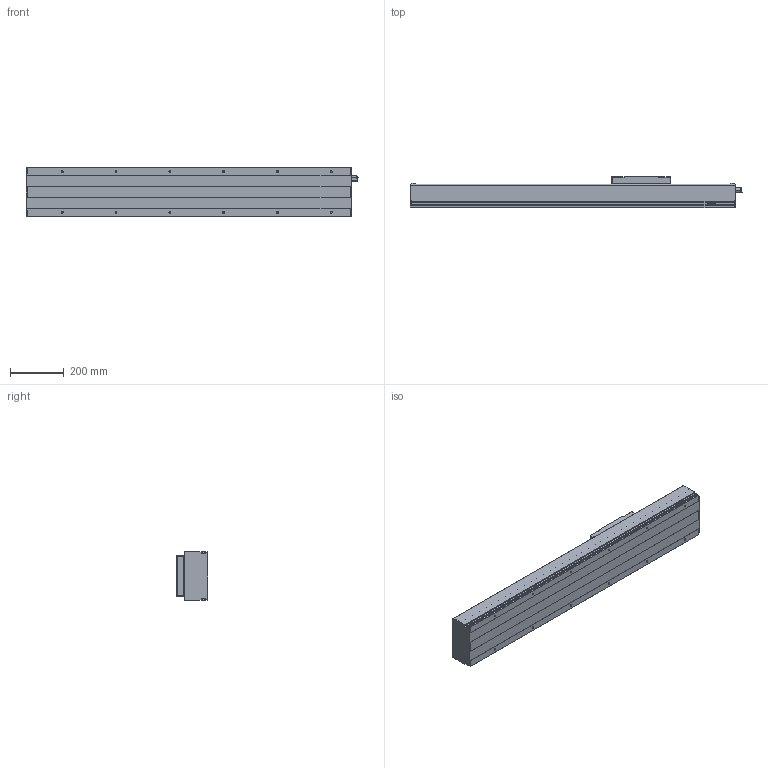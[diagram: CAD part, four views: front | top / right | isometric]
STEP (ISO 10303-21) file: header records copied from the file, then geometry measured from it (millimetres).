
FILE_DESCRIPTION(/* description */ (''),/* implementation_level */ '2;1');
FILE_NAME(/* name */ 'D:\混合母檔20191031\混和母檔\混和母檔\bin\Debug\Download\3D\KS180-20C-700AFI\KS180-20C-700AFI.stp',/* time_stamp */ '2019-11-04T16:20:59+08:00',/* author */ ('user'),/* organization */ (''),/* preprocessor_version */ 'ST-DEVELOPER v16.13',/* originating_system */ 'Autodesk Inventor 2018',/* authorisation */ '');
FILE_SCHEMA (('AUTOMOTIVE_DESIGN { 1 0 10303 214 3 1 1 }'));
Length unit declared in the file: millimetre
Products named in the file (3): KS180-20C-700AFI; KS180-FI; KS180-SL
Assembly tree (2 placements, depth 2):
  KS180-20C-700AFI
    KS180-FI
    KS180-SL
Bounding box: 1234.5 x 118 x 180 mm (x, y, z)
Volume: 7122367.5 mm3; surface area: 1510783.4 mm2
Topology: 4 solids, 8 shells, 734 faces, 1955 edges, 1275 vertices
Faces by surface type: plane 408, bspline 136, cylinder 86, cone 84, torus 16, sphere 4
Full cylindrical faces by diameter (mm): 3.571 x4, 4 x4, 4.134 x4, 4.5 x4, 6 x6, 6.647 x12, 8 x6, 8.016 x1, 8.4 x4, 9.4 x4, 12 x2, 13.1 x1, 15 x1, 18.75 x2, 46 x1, 50 x1
Entity records: 26432 total; most frequent: CARTESIAN_POINT 9330, ORIENTED_EDGE 3668, DIRECTION 3067, EDGE_CURVE 1833, VERTEX_POINT 1250, LINE 1173, VECTOR 1173, AXIS2_PLACEMENT_3D 947
